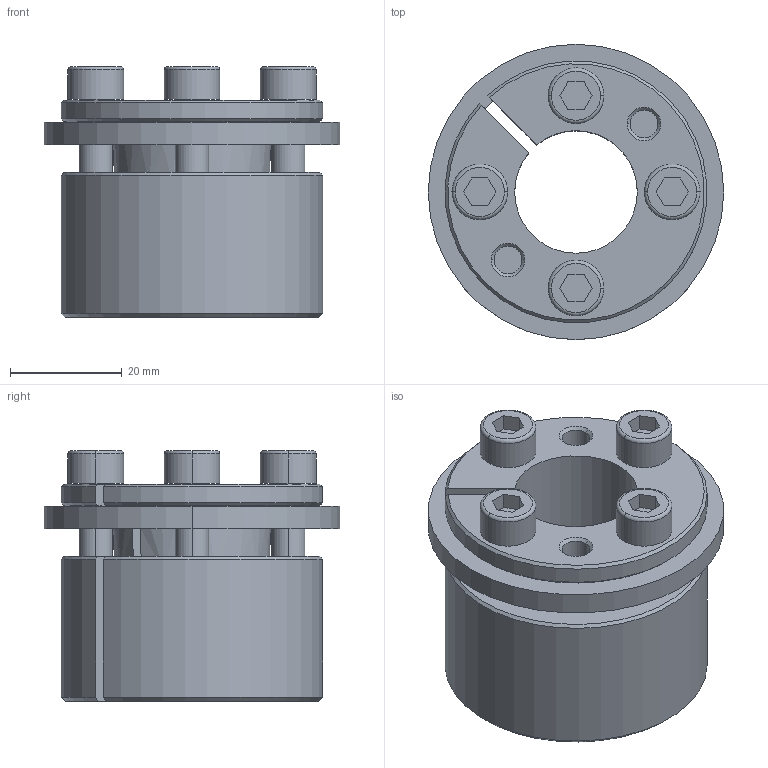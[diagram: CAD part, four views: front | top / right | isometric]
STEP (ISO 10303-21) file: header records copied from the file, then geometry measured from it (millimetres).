
FILE_DESCRIPTION((''),'2;1');
FILE_NAME('398-015-0022','2024-02-16T',('Brieden'),('Brieden'),'PRO/ENGINEER BY PARAMETRIC TECHNOLOGY CORPORATION, 2010160','PRO/ENGINEER BY PARAMETRIC TECHNOLOGY CORPORATION, 2010160','');
FILE_SCHEMA(('AUTOMOTIVE_DESIGN { 1 0 10303 214 1 1 1 1 }'));
Length unit declared in the file: millimetre
Products named in the file (1): 398-015-0022
Bounding box: 53 x 53 x 45 mm (x, y, z)
Volume: 49356.3 mm3; surface area: 23308.7 mm2
Topology: 3 solids, 3 shells, 131 faces, 307 edges, 194 vertices
Faces by surface type: plane 56, cylinder 44, cone 23, torus 8
Entity records: 5038 total; most frequent: CARTESIAN_POINT 704, DIRECTION 702, ORIENTED_EDGE 614, PRESENTATION_STYLE_ASSIGNMENT 330, STYLED_ITEM 310, CURVE_STYLE 307, EDGE_CURVE 307, AXIS2_PLACEMENT_3D 277
